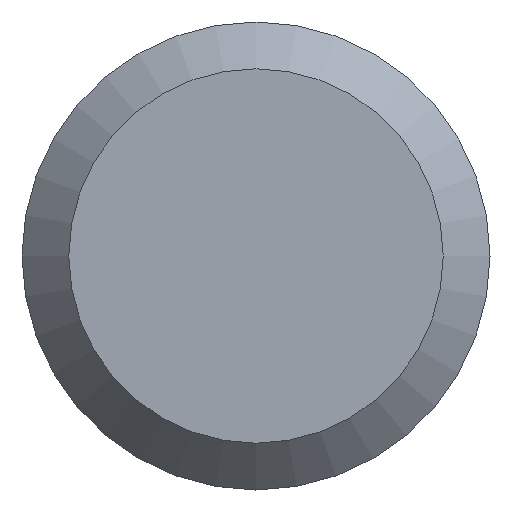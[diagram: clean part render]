
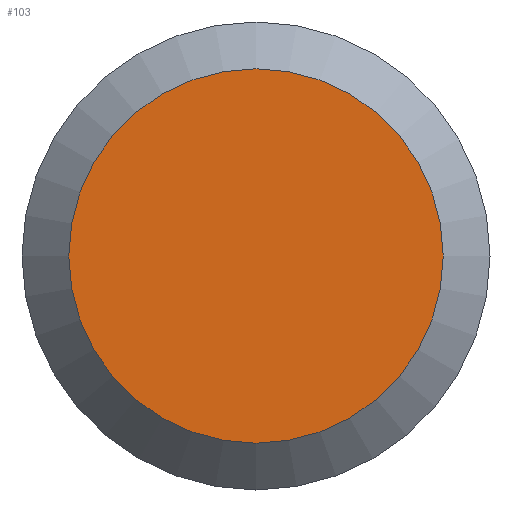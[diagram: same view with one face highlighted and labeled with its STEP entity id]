
A CAD part, left-side view. The second image highlights one B-rep face of the part: STEP entity #103.
In plain terms, the highlighted planar face has unit normal (-1, 0, 0).
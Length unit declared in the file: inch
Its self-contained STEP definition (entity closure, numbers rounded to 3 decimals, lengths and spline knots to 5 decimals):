
#15 = CARTESIAN_POINT ( 'NONE',  ( 0., 0.0925, 0. ) ) ;
#18 = EDGE_LOOP ( 'NONE', ( #19 ) ) ;
#19 = ORIENTED_EDGE ( 'NONE', *, *, #243, .T. ) ;
#22 = AXIS2_PLACEMENT_3D ( 'NONE', #15, #230, #211 ) ;
#63 = DIRECTION ( 'NONE',  ( 0., 0., -1. ) ) ;
#68 = FACE_OUTER_BOUND ( 'NONE', #18, .T. ) ;
#103 = ADVANCED_FACE ( 'NONE', ( #68 ), #232, .F. ) ;
#118 = AXIS2_PLACEMENT_3D ( 'NONE', #212, #219, #63 ) ;
#133 = CARTESIAN_POINT ( 'NONE',  ( 0., 0., -0.074 ) ) ;
#165 = VERTEX_POINT ( 'NONE', #133 ) ;
#190 = CIRCLE ( 'NONE', #118, 0.074 ) ;
#211 = DIRECTION ( 'NONE',  ( 0., 0., -1. ) ) ;
#212 = CARTESIAN_POINT ( 'NONE',  ( 0., 0., 0. ) ) ;
#219 = DIRECTION ( 'NONE',  ( -1., 0., 0. ) ) ;
#230 = DIRECTION ( 'NONE',  ( 1., 0., 0. ) ) ;
#232 = PLANE ( 'NONE',  #22 ) ;
#243 = EDGE_CURVE ( 'NONE', #165, #165, #190, .T. ) ;
